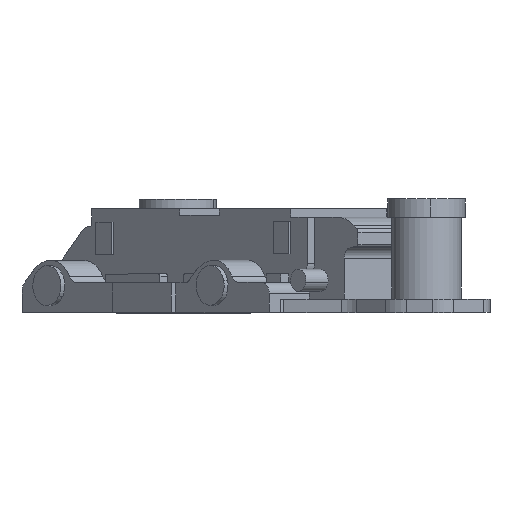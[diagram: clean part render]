
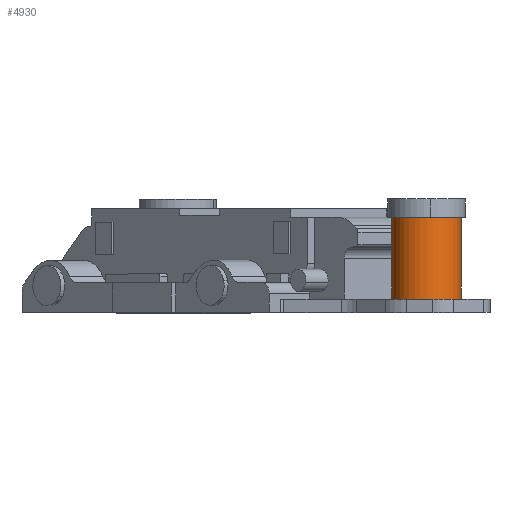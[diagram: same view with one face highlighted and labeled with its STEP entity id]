
A CAD part, top view. The second image highlights one B-rep face of the part: STEP entity #4930.
In plain terms, the highlighted cylindrical face has radius 3.15 mm (diameter 6.3 mm), a partial arc.
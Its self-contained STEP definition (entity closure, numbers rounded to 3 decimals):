
#250 = CARTESIAN_POINT ( 'NONE',  ( 17.008, -2.1, 17.215 ) ) ;
#475 = VECTOR ( 'NONE', #2595, 1000. ) ;
#555 = ORIENTED_EDGE ( 'NONE', *, *, #3844, .T. ) ;
#655 = CARTESIAN_POINT ( 'NONE',  ( 20.158, 5.3, 17.215 ) ) ;
#688 = LINE ( 'NONE', #1562, #5183 ) ;
#1238 = CYLINDRICAL_SURFACE ( 'NONE', #4752, 3.15 ) ;
#1380 = AXIS2_PLACEMENT_3D ( 'NONE', #3762, #1439, #2028 ) ;
#1411 = EDGE_CURVE ( 'NONE', #5399, #2386, #688, .T. ) ;
#1434 = VERTEX_POINT ( 'NONE', #655 ) ;
#1439 = DIRECTION ( 'NONE',  ( 0., -1., 0. ) ) ;
#1500 = CARTESIAN_POINT ( 'NONE',  ( 13.858, 5.3, 17.215 ) ) ;
#1562 = CARTESIAN_POINT ( 'NONE',  ( 13.858, -12.21, 17.215 ) ) ;
#2028 = DIRECTION ( 'NONE',  ( -1., 0., 0. ) ) ;
#2047 = DIRECTION ( 'NONE',  ( -1., 0., 0. ) ) ;
#2091 = DIRECTION ( 'NONE',  ( 0., 1., 0. ) ) ;
#2144 = DIRECTION ( 'NONE',  ( 1., 0., 0. ) ) ;
#2205 = AXIS2_PLACEMENT_3D ( 'NONE', #250, #3974, #2144 ) ;
#2386 = VERTEX_POINT ( 'NONE', #1500 ) ;
#2520 = EDGE_CURVE ( 'NONE', #2596, #5399, #4394, .T. ) ;
#2595 = DIRECTION ( 'NONE',  ( 0., 1., 0. ) ) ;
#2596 = VERTEX_POINT ( 'NONE', #3199 ) ;
#2661 = FACE_OUTER_BOUND ( 'NONE', #4739, .T. ) ;
#3007 = ORIENTED_EDGE ( 'NONE', *, *, #1411, .F. ) ;
#3199 = CARTESIAN_POINT ( 'NONE',  ( 20.158, -2.1, 17.215 ) ) ;
#3447 = CARTESIAN_POINT ( 'NONE',  ( 17.008, -12.21, 17.215 ) ) ;
#3616 = CARTESIAN_POINT ( 'NONE',  ( 20.158, -12.21, 17.215 ) ) ;
#3628 = EDGE_CURVE ( 'NONE', #2596, #1434, #5528, .T. ) ;
#3762 = CARTESIAN_POINT ( 'NONE',  ( 17.008, 5.3, 17.215 ) ) ;
#3844 = EDGE_CURVE ( 'NONE', #1434, #2386, #4457, .T. ) ;
#3974 = DIRECTION ( 'NONE',  ( 0., -1., 0. ) ) ;
#4336 = ORIENTED_EDGE ( 'NONE', *, *, #2520, .F. ) ;
#4394 = CIRCLE ( 'NONE', #2205, 3.15 ) ;
#4457 = CIRCLE ( 'NONE', #1380, 3.15 ) ;
#4577 = DIRECTION ( 'NONE',  ( 0., 1., 0. ) ) ;
#4739 = EDGE_LOOP ( 'NONE', ( #4336, #6057, #555, #3007 ) ) ;
#4752 = AXIS2_PLACEMENT_3D ( 'NONE', #3447, #4577, #2047 ) ;
#4930 = ADVANCED_FACE ( 'NONE', ( #2661 ), #1238, .T. ) ;
#5183 = VECTOR ( 'NONE', #2091, 1000. ) ;
#5323 = CARTESIAN_POINT ( 'NONE',  ( 13.858, -2.1, 17.215 ) ) ;
#5399 = VERTEX_POINT ( 'NONE', #5323 ) ;
#5528 = LINE ( 'NONE', #3616, #475 ) ;
#6057 = ORIENTED_EDGE ( 'NONE', *, *, #3628, .T. ) ;
